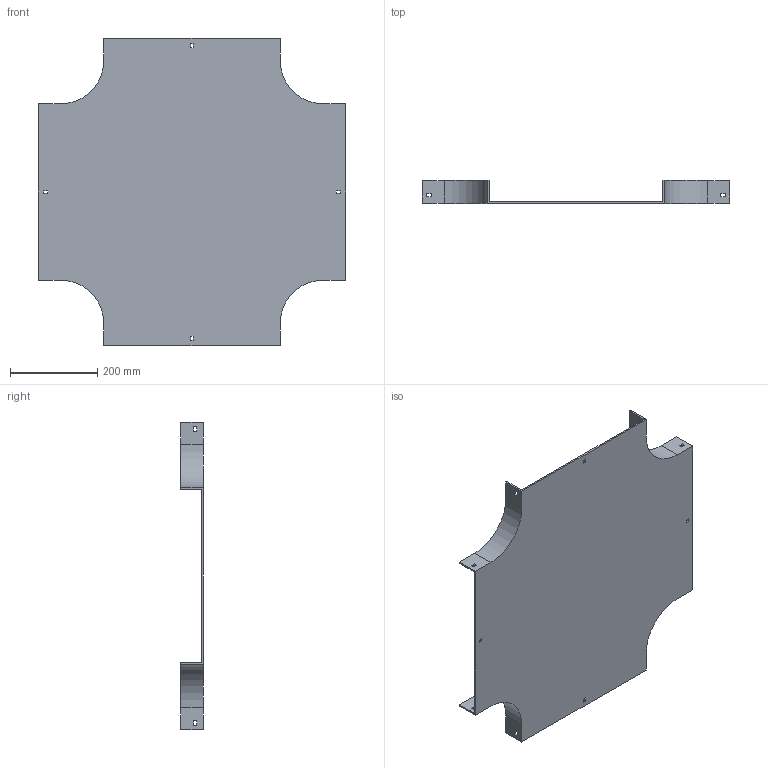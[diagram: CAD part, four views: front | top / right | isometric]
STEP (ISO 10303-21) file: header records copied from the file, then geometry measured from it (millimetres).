
FILE_DESCRIPTION (( 'STEP AP214' ), '1' );
FILE_NAME ('17B1B400.step', '2025-02-21T09:57:19', ( '' ), ( '' ), 'SwSTEP 2.0', 'SolidWorks 2023', '' );
FILE_SCHEMA (( 'AUTOMOTIVE_DESIGN' ));
Length unit declared in the file: millimetre
Products named in the file (1): 17B1B400
Bounding box: 704 x 52 x 704 mm (x, y, z)
Volume: 1623344.8 mm3; surface area: 939624.7 mm2
Topology: 1 solids, 1 shells, 82 faces, 240 edges, 160 vertices
Faces by surface type: plane 74, cylinder 8
Entity records: 2751 total; most frequent: CARTESIAN_POINT 483, ORIENTED_EDGE 480, DIRECTION 422, EDGE_CURVE 240, LINE 224, VECTOR 224, VERTEX_POINT 160, EDGE_LOOP 106
